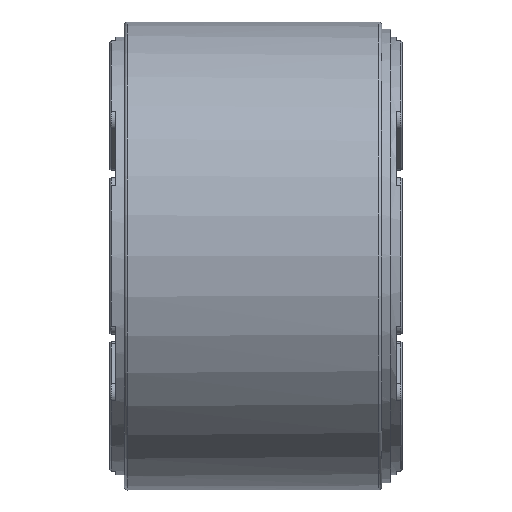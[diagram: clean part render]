
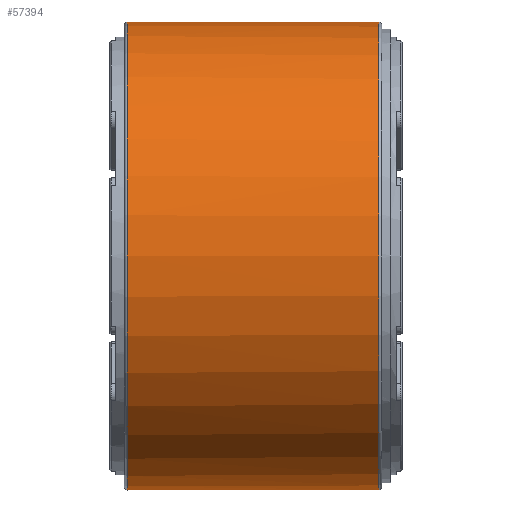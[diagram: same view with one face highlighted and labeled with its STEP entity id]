
A CAD part, left-side view. The second image highlights one B-rep face of the part: STEP entity #57394.
In plain terms, the highlighted cylindrical face has radius 40 mm (diameter 80 mm), a full revolution.
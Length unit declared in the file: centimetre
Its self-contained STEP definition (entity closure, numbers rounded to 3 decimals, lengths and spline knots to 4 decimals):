
#3784=VECTOR('',#66965,1.);
#3785=VECTOR('',#66966,1.);
#8425=LINE('',#82229,#3784);
#8426=LINE('',#82251,#3785);
#13066=B_SPLINE_CURVE_WITH_KNOTS('',3,(#82202,#82203,#82204,#82205,#82206,
#82207,#82208,#82209,#82210,#82211,#82212,#82213,#82214,#82215,#82216,#82217,
#82218,#82219,#82220,#82221,#82222,#82223,#82224,#82225,#82226),
 .UNSPECIFIED.,.F.,.U.,(4,3,3,3,3,3,3,3,4),(0.,0.0956,0.1882,
0.2462,0.2824,0.3186,0.3765,
0.4692,0.5647),.UNSPECIFIED.);
#13067=B_SPLINE_CURVE_WITH_KNOTS('',3,(#82231,#82232,#82233,#82234,#82235,
#82236,#82237,#82238,#82239,#82240,#82241,#82242,#82243,#82244,#82245,#82246,
#82247,#82248,#82249),.UNSPECIFIED.,.F.,.U.,(4,3,3,3,3,3,4),(0.,0.3323,
0.8641,1.5523,2.4742,3.4172,3.695),
 .UNSPECIFIED.);
#13068=B_SPLINE_CURVE_WITH_KNOTS('',3,(#82253,#82254,#82255,#82256,#82257,
#82258,#82259,#82260,#82261,#82262,#82263,#82264,#82265),.UNSPECIFIED.,.F.,
 .U.,(4,3,3,3,4),(0.,0.0724,0.1882,0.3736,
0.5647),.UNSPECIFIED.);
#14291=CYLINDRICAL_SURFACE('',#60838,4.);
#15520=VERTEX_POINT('',#82198);
#15522=VERTEX_POINT('',#82227);
#15523=VERTEX_POINT('',#82228);
#15524=VERTEX_POINT('',#82230);
#15525=VERTEX_POINT('',#82250);
#15526=VERTEX_POINT('',#82252);
#15527=VERTEX_POINT('',#82266);
#21027=CIRCLE('',#60836,4.);
#21029=CIRCLE('',#60839,4.);
#23801=EDGE_CURVE('',#15520,#15520,#21027,.T.);
#23803=EDGE_CURVE('',#15522,#15523,#13066,.T.);
#23804=EDGE_CURVE('',#15524,#15522,#8425,.T.);
#23805=EDGE_CURVE('',#15525,#15524,#13067,.F.);
#23806=EDGE_CURVE('',#15526,#15525,#8426,.T.);
#23807=EDGE_CURVE('',#15527,#15526,#13068,.T.);
#23808=EDGE_CURVE('',#15523,#15527,#21029,.T.);
#32474=ORIENTED_EDGE('',*,*,#23803,.F.);
#32475=ORIENTED_EDGE('',*,*,#23804,.F.);
#32476=ORIENTED_EDGE('',*,*,#23805,.F.);
#32477=ORIENTED_EDGE('',*,*,#23806,.F.);
#32478=ORIENTED_EDGE('',*,*,#23807,.F.);
#32479=ORIENTED_EDGE('',*,*,#23808,.F.);
#32480=ORIENTED_EDGE('',*,*,#23801,.F.);
#49816=EDGE_LOOP('',(#32474,#32475,#32476,#32477,#32478,#32479));
#49817=EDGE_LOOP('',(#32480));
#53599=FACE_BOUND('',#49816,.T.);
#53600=FACE_BOUND('',#49817,.T.);
#57394=ADVANCED_FACE('',(#53599,#53600),#14291,.T.);
#60836=AXIS2_PLACEMENT_3D('',#82197,#66959,#66960);
#60838=AXIS2_PLACEMENT_3D('',#82201,#66963,#66964);
#60839=AXIS2_PLACEMENT_3D('',#82267,#66967,#66968);
#66959=DIRECTION('',(0.,1.,0.));
#66960=DIRECTION('',(4.,0.,0.));
#66963=DIRECTION('',(0.,1.,0.));
#66964=DIRECTION('',(-4.,0.,0.));
#66965=DIRECTION('',(0.,-1.,0.));
#66966=DIRECTION('',(0.,1.,0.));
#66967=DIRECTION('',(0.,-1.,0.));
#66968=DIRECTION('',(-4.,0.,0.));
#82197=CARTESIAN_POINT('',(0.,3.45,0.));
#82198=CARTESIAN_POINT('',(-4.,3.45,0.));
#82201=CARTESIAN_POINT('',(0.,1.3,0.));
#82202=CARTESIAN_POINT('',(3.8189,-0.5,1.1899));
#82203=CARTESIAN_POINT('',(3.8189,-0.5319,1.1899));
#82204=CARTESIAN_POINT('',(3.8175,-0.5642,1.1944));
#82205=CARTESIAN_POINT('',(3.8148,-0.5949,1.2032));
#82206=CARTESIAN_POINT('',(3.8121,-0.6248,1.2117));
#82207=CARTESIAN_POINT('',(3.8081,-0.6532,1.2241));
#82208=CARTESIAN_POINT('',(3.8029,-0.6796,1.2401));
#82209=CARTESIAN_POINT('',(3.7997,-0.6961,1.2501));
#82210=CARTESIAN_POINT('',(3.7959,-0.7117,1.2614));
#82211=CARTESIAN_POINT('',(3.7918,-0.7262,1.2738));
#82212=CARTESIAN_POINT('',(3.7891,-0.7352,1.2816));
#82213=CARTESIAN_POINT('',(3.7864,-0.7438,1.2897));
#82214=CARTESIAN_POINT('',(3.7834,-0.7519,1.2983));
#82215=CARTESIAN_POINT('',(3.7805,-0.7601,1.3069));
#82216=CARTESIAN_POINT('',(3.7774,-0.7678,1.3158));
#82217=CARTESIAN_POINT('',(3.7741,-0.7751,1.3252));
#82218=CARTESIAN_POINT('',(3.7689,-0.7867,1.3401));
#82219=CARTESIAN_POINT('',(3.7632,-0.7971,1.356));
#82220=CARTESIAN_POINT('',(3.7572,-0.8061,1.3724));
#82221=CARTESIAN_POINT('',(3.7476,-0.8204,1.3986));
#82222=CARTESIAN_POINT('',(3.7372,-0.8313,1.4262));
#82223=CARTESIAN_POINT('',(3.7261,-0.8387,1.4548));
#82224=CARTESIAN_POINT('',(3.7146,-0.8462,1.4842));
#82225=CARTESIAN_POINT('',(3.7023,-0.85,1.5145));
#82226=CARTESIAN_POINT('',(3.6899,-0.85,1.5443));
#82227=CARTESIAN_POINT('',(3.8189,-0.5,1.1899));
#82228=CARTESIAN_POINT('',(3.6899,-0.85,1.5443));
#82229=CARTESIAN_POINT('',(3.8189,1.3,1.1899));
#82230=CARTESIAN_POINT('',(3.8189,1.025,1.1899));
#82231=CARTESIAN_POINT('',(3.8189,1.025,1.1899));
#82232=CARTESIAN_POINT('',(3.8189,1.1358,1.1899));
#82233=CARTESIAN_POINT('',(3.8241,1.2481,1.1736));
#82234=CARTESIAN_POINT('',(3.8335,1.3548,1.142));
#82235=CARTESIAN_POINT('',(3.8486,1.5256,1.0914));
#82236=CARTESIAN_POINT('',(3.8746,1.6838,1.0012));
#82237=CARTESIAN_POINT('',(3.9016,1.8141,0.8817));
#82238=CARTESIAN_POINT('',(3.9366,1.9827,0.7269));
#82239=CARTESIAN_POINT('',(3.9724,2.1063,0.5206));
#82240=CARTESIAN_POINT('',(3.9891,2.1633,0.2952));
#82241=CARTESIAN_POINT('',(4.0114,2.2396,-0.0067));
#82242=CARTESIAN_POINT('',(3.9947,2.1921,-0.3391));
#82243=CARTESIAN_POINT('',(3.9539,2.0363,-0.6059));
#82244=CARTESIAN_POINT('',(3.912,1.8769,-0.8787));
#82245=CARTESIAN_POINT('',(3.8517,1.6066,-1.0818));
#82246=CARTESIAN_POINT('',(3.8291,1.301,-1.1566));
#82247=CARTESIAN_POINT('',(3.8225,1.211,-1.1786));
#82248=CARTESIAN_POINT('',(3.8189,1.1176,-1.1899));
#82249=CARTESIAN_POINT('',(3.8189,1.025,-1.1899));
#82250=CARTESIAN_POINT('',(3.8189,1.025,-1.1899));
#82251=CARTESIAN_POINT('',(3.8189,1.3,-1.1899));
#82252=CARTESIAN_POINT('',(3.8189,-0.5,-1.1899));
#82253=CARTESIAN_POINT('',(3.6899,-0.85,-1.5443));
#82254=CARTESIAN_POINT('',(3.6993,-0.85,-1.5218));
#82255=CARTESIAN_POINT('',(3.7086,-0.8479,-1.4989));
#82256=CARTESIAN_POINT('',(3.7176,-0.8435,-1.4763));
#82257=CARTESIAN_POINT('',(3.7319,-0.8365,-1.4402));
#82258=CARTESIAN_POINT('',(3.7452,-0.824,-1.4052));
#82259=CARTESIAN_POINT('',(3.7572,-0.8061,-1.3724));
#82260=CARTESIAN_POINT('',(3.7764,-0.7773,-1.3199));
#82261=CARTESIAN_POINT('',(3.7919,-0.7346,-1.274));
#82262=CARTESIAN_POINT('',(3.8024,-0.682,-1.2416));
#82263=CARTESIAN_POINT('',(3.8133,-0.6279,-1.2082));
#82264=CARTESIAN_POINT('',(3.8189,-0.5637,-1.1899));
#82265=CARTESIAN_POINT('',(3.8189,-0.5,-1.1899));
#82266=CARTESIAN_POINT('',(3.6899,-0.85,-1.5443));
#82267=CARTESIAN_POINT('',(0.,-0.85,0.));
